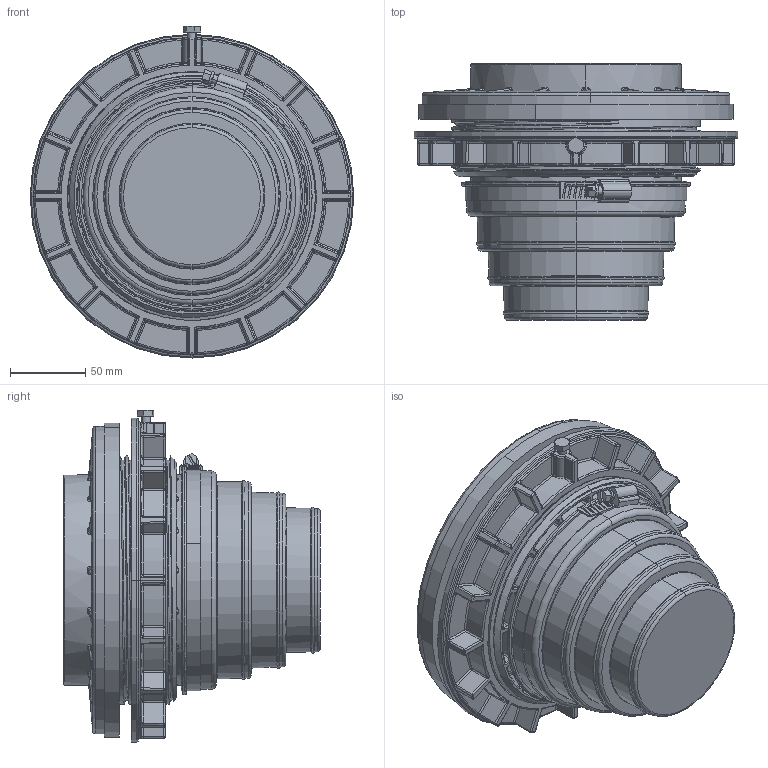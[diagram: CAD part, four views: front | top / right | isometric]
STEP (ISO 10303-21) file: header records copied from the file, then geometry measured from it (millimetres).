
FILE_DESCRIPTION (( 'STEP AP203' ), '1' );
FILE_NAME ('KPTM_125-90.step', '2011-08-08T11:43:52', ( '' ), ( '' ), 'SwSTEP 2.0', 'SolidWorks 2011', '' );
FILE_SCHEMA (( 'CONFIG_CONTROL_DESIGN' ));
Products named in the file (1): KPTM_125-90
Bounding box: 215 x 170.5 x 220.5 mm (x, y, z)
Volume: 981966.8 mm3; surface area: 345941.6 mm2
Topology: 1 solids, 1 shells, 1915 faces, 4551 edges, 2420 vertices
Faces by surface type: bspline 564, cylinder 381, torus 342, plane 294, sphere 252, cone 82
Entity records: 73458 total; most frequent: CARTESIAN_POINT 34770, ORIENTED_EDGE 8646, DIRECTION 7801, EDGE_CURVE 4323, AXIS2_PLACEMENT_3D 3479, VERTEX_POINT 2420, CIRCLE 2127, EDGE_LOOP 1933
